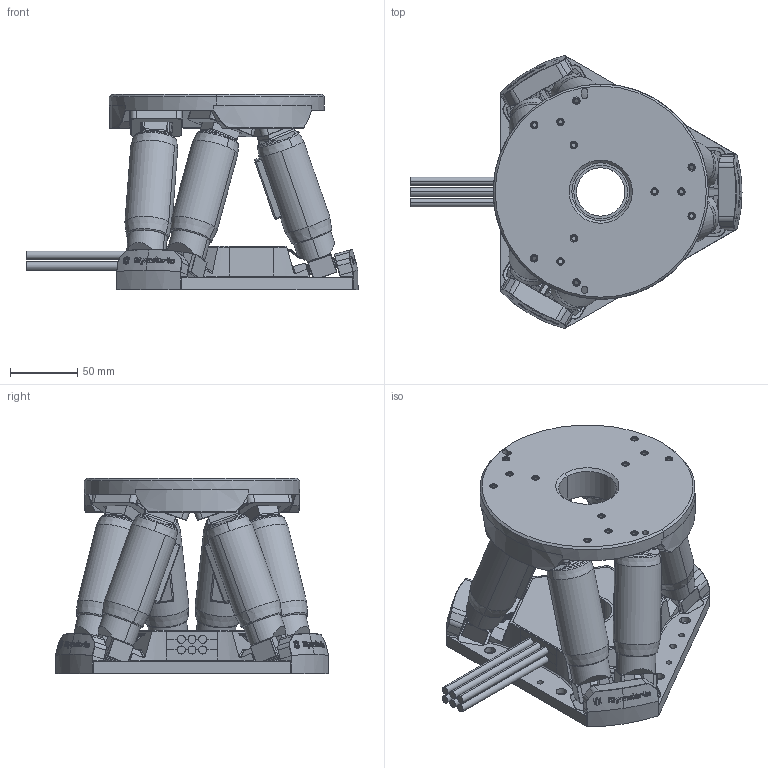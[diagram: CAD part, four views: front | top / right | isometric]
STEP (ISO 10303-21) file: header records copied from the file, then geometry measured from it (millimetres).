
FILE_DESCRIPTION (( 'STEP AP203' ), '1' );
FILE_NAME ('STD02_0000_Hexapode BORA_G0.step', '2016-10-13T08:44:02', ( '' ), ( '' ), 'SwSTEP 2.0', 'SolidWorks 2016', '' );
FILE_SCHEMA (( 'CONFIG_CONTROL_DESIGN' ));
Length unit declared in the file: millimetre
Products named in the file (19): STD02_1301_Axe Actionneur-Cardan inferieur; STD02_0100_Plateaux_Plateau Fixe Light; STD02_0000_Hexapode BORA_G0; STD02_1302_Axe Plateau-Cardan inferieur; 0160_Plateau Mobile; STD02_0310_Noix Cardan inferieur; STD02_0100_Plateaux_Plateau Mobile Light; 0320_Noix Cardan superieur; Washer ISO 7091 - 2-Inox_Washer ISO 7091 - 2-Inox; STD02_0320_Noix Cardan superieur_Light; 0210_Corps Actionneur Articule; STD02_0200_Actionneur_Gauche Light; STD02_0210_Corps actionneur articule_Light; 0220-A_Tige Actionneur Articule D; 0220-A_Tige Actionneur Articule G; STD02_0220_Tige actionneur articule_Defaut Light D; STD02_0220_Tige actionneur articule_Defaut Light G; 0110_Plateau Fixe; STD02_0200_Actionneur_Droite Light
Assembly tree (25 placements, depth 4):
  STD02_0000_Hexapode BORA_G0
    STD02_0100_Plateaux_Plateau Fixe Light
      0110_Plateau Fixe
    STD02_0100_Plateaux_Plateau Mobile Light
      0160_Plateau Mobile
    STD02_0200_Actionneur_Gauche Light  x3
      STD02_0210_Corps actionneur articule_Light
        Washer ISO 7091 - 2-Inox_Washer ISO 7091 - 2-Inox
        0210_Corps Actionneur Articule
      STD02_0220_Tige actionneur articule_Defaut Light G
        0220-A_Tige Actionneur Articule G
      STD02_0310_Noix Cardan inferieur
        STD02_1301_Axe Actionneur-Cardan inferieur
        STD02_1302_Axe Plateau-Cardan inferieur
      STD02_0320_Noix Cardan superieur_Light
        0320_Noix Cardan superieur
    STD02_0200_Actionneur_Droite Light  x3
      STD02_0210_Corps actionneur articule_Light
        Washer ISO 7091 - 2-Inox_Washer ISO 7091 - 2-Inox
        0210_Corps Actionneur Articule
      STD02_0220_Tige actionneur articule_Defaut Light D
        0220-A_Tige Actionneur Articule D
      STD02_0310_Noix Cardan inferieur
        STD02_1301_Axe Actionneur-Cardan inferieur
        STD02_1302_Axe Plateau-Cardan inferieur
      STD02_0320_Noix Cardan superieur_Light
        0320_Noix Cardan superieur
Bounding box: 246.83 x 202.92 x 145 mm (x, y, z)
Volume: 1570355.5 mm3; surface area: 353694.7 mm2
Topology: 50 solids, 50 shells, 4485 faces, 10789 edges, 6518 vertices
Faces by surface type: plane 1816, cylinder 1109, torus 606, bspline 552, cone 378, sphere 24
Entity records: 76524 total; most frequent: CARTESIAN_POINT 31202, ORIENTED_EDGE 9950, DIRECTION 7260, EDGE_CURVE 4975, VERTEX_POINT 3143, VECTOR 2436, LINE 2436, AXIS2_PLACEMENT_3D 2412
